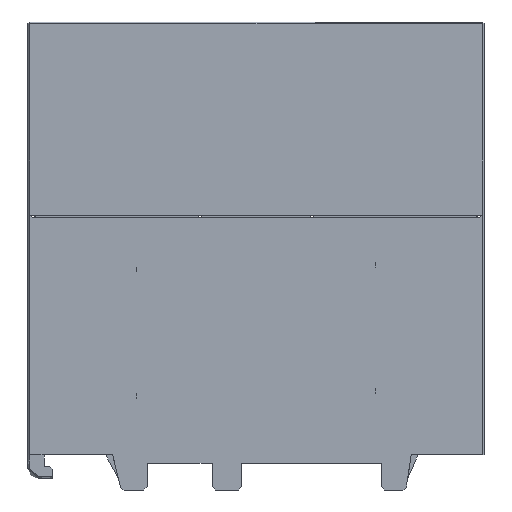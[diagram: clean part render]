
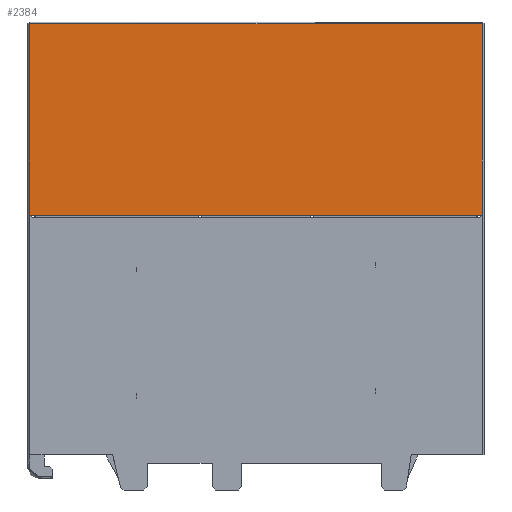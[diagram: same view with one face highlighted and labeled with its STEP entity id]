
A CAD part, left-side view. The second image highlights one B-rep face of the part: STEP entity #2384.
In plain terms, the highlighted planar face has unit normal (-1, 0, 0).
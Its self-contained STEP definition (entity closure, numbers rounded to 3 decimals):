
#2384=ADVANCED_FACE('',(#4541),#41431,.T.);
#4541=FACE_OUTER_BOUND('',#6921,.T.);
#6921=EDGE_LOOP('',(#19924,#19925,#19926,#19927));
#19924=ORIENTED_EDGE('',*,*,#27552,.T.);
#19925=ORIENTED_EDGE('',*,*,#27550,.F.);
#19926=ORIENTED_EDGE('',*,*,#27556,.F.);
#19927=ORIENTED_EDGE('',*,*,#27554,.F.);
#27550=EDGE_CURVE('',#39196,#39199,#34573,.T.);
#27552=EDGE_CURVE('',#39200,#39199,#34574,.T.);
#27554=EDGE_CURVE('',#39200,#39197,#34576,.T.);
#27556=EDGE_CURVE('',#39197,#39196,#34578,.T.);
#34573=B_SPLINE_CURVE_WITH_KNOTS('',1,(#79422,#79423),.UNSPECIFIED.,.F.,
 .F.,(2,2),(0.,1.),.UNSPECIFIED.);
#34574=B_SPLINE_CURVE_WITH_KNOTS('',1,(#79427,#79428),.UNSPECIFIED.,.F.,
 .F.,(2,2),(-1.,0.),.UNSPECIFIED.);
#34576=B_SPLINE_CURVE_WITH_KNOTS('',1,(#79433,#79434),.UNSPECIFIED.,.F.,
 .F.,(2,2),(0.,1.),.UNSPECIFIED.);
#34578=B_SPLINE_CURVE_WITH_KNOTS('',1,(#79437,#79438),.UNSPECIFIED.,.F.,
 .F.,(2,2),(0.,1.),.UNSPECIFIED.);
#39196=VERTEX_POINT('',#72772);
#39197=VERTEX_POINT('',#72773);
#39199=VERTEX_POINT('',#72775);
#39200=VERTEX_POINT('',#72776);
#41431=PLANE('',#43174);
#43174=AXIS2_PLACEMENT_3D('',#70678,#44903,$);
#44903=DIRECTION('',(-1.,0.,0.));
#70678=CARTESIAN_POINT('',(38.578,484.101,-31.716));
#72772=CARTESIAN_POINT('',(38.578,342.201,-37.166));
#72773=CARTESIAN_POINT('',(38.578,471.201,-37.166));
#72775=CARTESIAN_POINT('',(38.578,342.201,-91.666));
#72776=CARTESIAN_POINT('',(38.578,471.201,-91.666));
#79422=CARTESIAN_POINT('',(38.578,342.201,-37.166));
#79423=CARTESIAN_POINT('',(38.578,342.201,-91.666));
#79427=CARTESIAN_POINT('',(38.578,471.201,-91.666));
#79428=CARTESIAN_POINT('',(38.578,342.201,-91.666));
#79433=CARTESIAN_POINT('',(38.578,471.201,-91.666));
#79434=CARTESIAN_POINT('',(38.578,471.201,-37.166));
#79437=CARTESIAN_POINT('',(38.578,471.201,-37.166));
#79438=CARTESIAN_POINT('',(38.578,342.201,-37.166));
